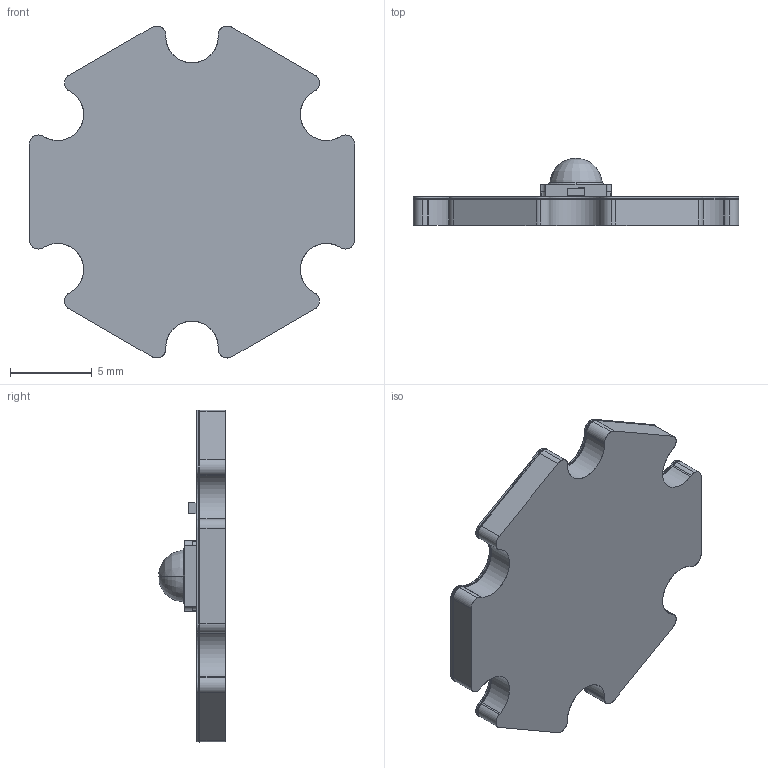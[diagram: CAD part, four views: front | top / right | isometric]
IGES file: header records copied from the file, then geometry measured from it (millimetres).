
Start section: SolidWorks IGES file using analytic representation for surfaces
Global section: file name: C:\P-Gold\Projects\MCPCBs\For_04-4x04-4_01die_LZ1\1900-0070-BGQ\Apps(LZ1-10XX02)\release_LZ1-10Rx02-P3_RevB_11-17-14\LZ1-10Rx02-P3_RevB.IGS; native system: SolidWorks 2014; preprocessor: SolidWorks 2014; author: dadebiyi; date: 141117.133455; units: millimetre
Bounding box: 19.9 x 4.1 x 20.31 mm (x, y, z)
Surface area: 2122.7 mm2 (no closed solid volume)
Topology: 0 solids, 0 shells, 667 faces, 5774 edges, 5772 vertices
Faces by surface type: bspline 539, revolution 128
